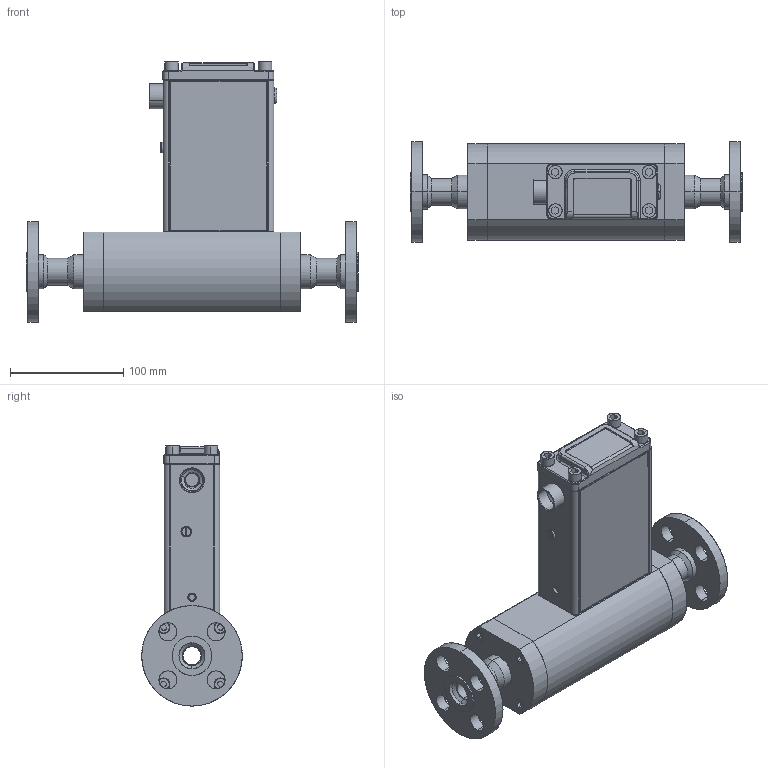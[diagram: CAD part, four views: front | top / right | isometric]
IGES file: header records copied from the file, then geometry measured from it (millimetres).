
Start section: SolidWorks IGES file using analytic representation for surfaces
Global section: file name: G:\Engineering\CAD MODELS FOR SALES\CAD MODEL STORAGE\SLA\SLAMF63\CUSTOMER FILES\IGES\SLAMF63-S-3G-0-Y-REVB.IGS; native system: SolidWorks 2023; preprocessor: SolidWorks 2023; author: SThen; date: 250205.160214; units: inch
Bounding box: 293.6 x 88.91 x 230.08 mm (x, y, z)
Surface area: 307275.8 mm2 (no closed solid volume)
Topology: 0 solids, 0 shells, 874 faces, 12077 edges, 12067 vertices
Faces by surface type: revolution 460, bspline 414
